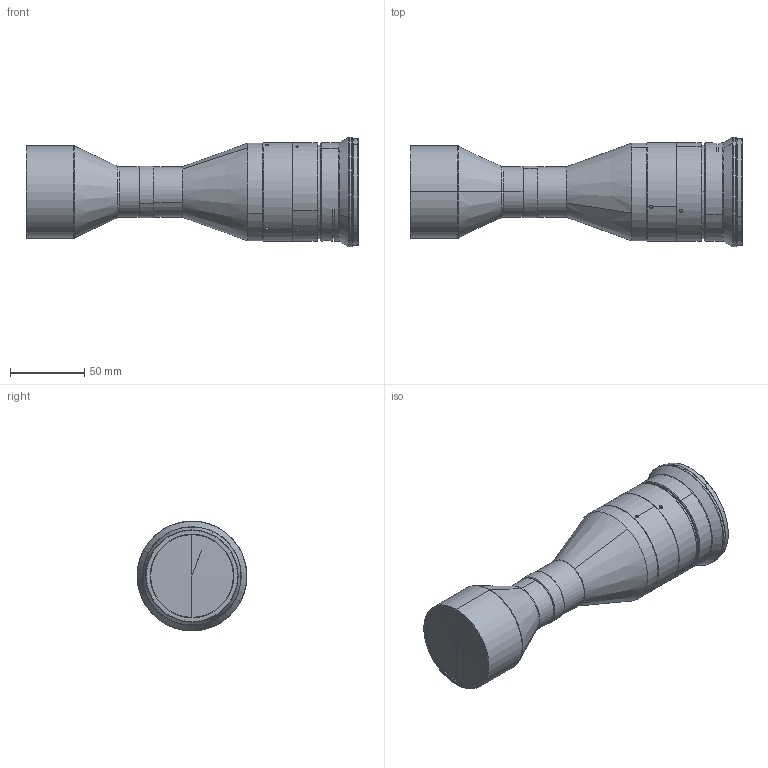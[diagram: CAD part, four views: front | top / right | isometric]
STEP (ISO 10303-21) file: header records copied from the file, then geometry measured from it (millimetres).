
FILE_DESCRIPTION (( 'STEP AP203' ), '1' );
FILE_NAME ('DTCM71M-42-M72-19.5-AL.STEP', '2022-06-16T07:15:40', ( '' ), ( '' ), 'SwSTEP 2.0', 'SolidWorks 2017', '' );
FILE_SCHEMA (( 'CONFIG_CONTROL_DESIGN' ));
Length unit declared in the file: millimetre
Products named in the file (1): DTCM71M-42-M72-19.5-AL
Bounding box: 223.2 x 73.93 x 73.93 mm (x, y, z)
Volume: 529687.9 mm3; surface area: 48581.5 mm2
Topology: 1 solids, 2 shells, 154 faces, 340 edges, 214 vertices
Faces by surface type: cylinder 65, cone 46, plane 33, bspline 8, torus 2
Entity records: 4890 total; most frequent: CARTESIAN_POINT 1405, DIRECTION 753, ORIENTED_EDGE 672, EDGE_CURVE 336, AXIS2_PLACEMENT_3D 318, VERTEX_POINT 214, EDGE_LOOP 182, CIRCLE 171
